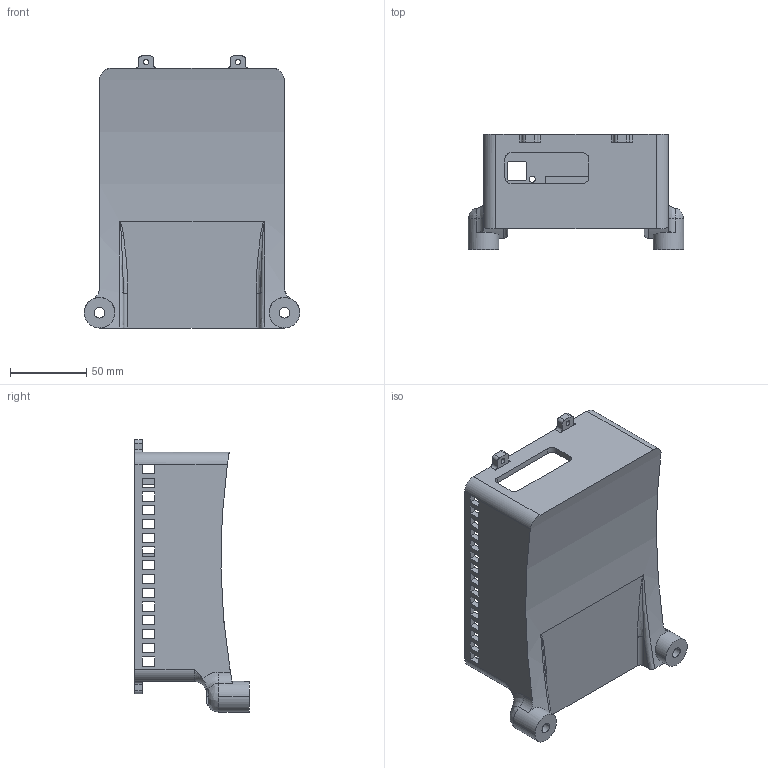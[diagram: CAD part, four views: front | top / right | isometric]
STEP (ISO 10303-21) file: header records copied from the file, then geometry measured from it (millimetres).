
FILE_DESCRIPTION((''),'2;1');
FILE_NAME('4000','2025-08-29T19:09:05',('15058'),(''),'CREO PARAMETRIC BY PTC INC, 2024063','CREO PARAMETRIC BY PTC INC, 2024063','');
FILE_SCHEMA(('CONFIG_CONTROL_DESIGN'));
Length unit declared in the file: millimetre
Products named in the file (1): 4000
Bounding box: 141 x 75 x 178 mm (x, y, z)
Volume: 321810.2 mm3; surface area: 103435.3 mm2
Topology: 1 solids, 1 shells, 244 faces, 722 edges, 480 vertices
Faces by surface type: plane 162, cylinder 70, bspline 8, torus 4
Entity records: 9284 total; most frequent: CARTESIAN_POINT 2528, ORIENTED_EDGE 1444, DIRECTION 1306, EDGE_CURVE 722, VECTOR 534, LINE 534, VERTEX_POINT 480, AXIS2_PLACEMENT_3D 386
